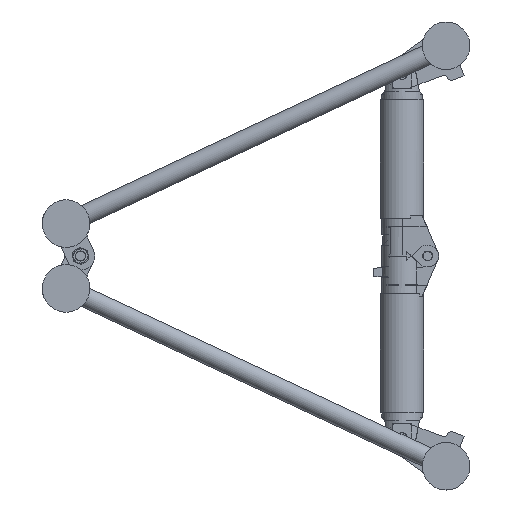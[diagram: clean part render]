
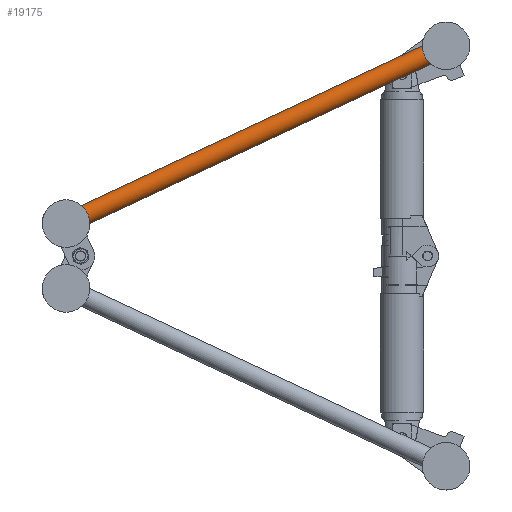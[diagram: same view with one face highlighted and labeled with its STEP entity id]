
A CAD part, left-side view. The second image highlights one B-rep face of the part: STEP entity #19175.
In plain terms, the highlighted cylindrical face has radius 12.5 mm (diameter 25 mm), a full revolution.
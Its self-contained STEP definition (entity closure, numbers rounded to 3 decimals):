
#310=B_SPLINE_CURVE_WITH_KNOTS('',3,(#30973,#30974,#30975,#30976,#30977,
#30978),.UNSPECIFIED.,.F.,.F.,(4,2,4),(1.801,1.922,
2.043),.UNSPECIFIED.);
#311=B_SPLINE_CURVE_WITH_KNOTS('',3,(#30982,#30983,#30984,#30985,#30986,
#30987),.UNSPECIFIED.,.F.,.F.,(4,2,4),(5.645,5.766,
5.887),.UNSPECIFIED.);
#314=B_SPLINE_CURVE_WITH_KNOTS('',3,(#31022,#31023,#31024,#31025,#31026,
#31027),.UNSPECIFIED.,.F.,.F.,(4,2,4),(5.645,5.766,
5.887),.UNSPECIFIED.);
#315=B_SPLINE_CURVE_WITH_KNOTS('',3,(#31031,#31032,#31033,#31034,#31035,
#31036),.UNSPECIFIED.,.F.,.F.,(4,2,4),(1.801,1.922,
2.043),.UNSPECIFIED.);
#802=FACE_BOUND('',#4026,.T.);
#1463=CIRCLE('',#20816,12.5);
#1464=CIRCLE('',#20818,12.5);
#1465=CIRCLE('',#20819,12.5);
#1466=CIRCLE('',#20820,12.5);
#1885=CYLINDRICAL_SURFACE('',#20817,12.5);
#2673=FACE_OUTER_BOUND('',#4025,.T.);
#4025=EDGE_LOOP('',(#14929,#14930,#14931,#14932));
#4026=EDGE_LOOP('',(#14933,#14934,#14935,#14936));
#8598=VERTEX_POINT('',#30971);
#8599=VERTEX_POINT('',#30972);
#8600=VERTEX_POINT('',#30979);
#8601=VERTEX_POINT('',#30981);
#8611=VERTEX_POINT('',#31020);
#8612=VERTEX_POINT('',#31021);
#8613=VERTEX_POINT('',#31028);
#8614=VERTEX_POINT('',#31030);
#10878=EDGE_CURVE('',#8598,#8599,#310,.T.);
#10880=EDGE_CURVE('',#8601,#8600,#311,.T.);
#10889=EDGE_CURVE('',#8600,#8598,#1463,.T.);
#10890=EDGE_CURVE('',#8611,#8612,#314,.T.);
#10891=EDGE_CURVE('',#8612,#8613,#1464,.T.);
#10892=EDGE_CURVE('',#8613,#8614,#315,.T.);
#10893=EDGE_CURVE('',#8614,#8611,#1465,.T.);
#10894=EDGE_CURVE('',#8599,#8601,#1466,.T.);
#14929=ORIENTED_EDGE('',*,*,#10890,.T.);
#14930=ORIENTED_EDGE('',*,*,#10891,.T.);
#14931=ORIENTED_EDGE('',*,*,#10892,.T.);
#14932=ORIENTED_EDGE('',*,*,#10893,.T.);
#14933=ORIENTED_EDGE('',*,*,#10880,.T.);
#14934=ORIENTED_EDGE('',*,*,#10889,.T.);
#14935=ORIENTED_EDGE('',*,*,#10878,.T.);
#14936=ORIENTED_EDGE('',*,*,#10894,.T.);
#19175=ADVANCED_FACE('',(#2673,#802),#1885,.T.);
#20816=AXIS2_PLACEMENT_3D('',#31018,#24832,#24833);
#20817=AXIS2_PLACEMENT_3D('',#31019,#24834,#24835);
#20818=AXIS2_PLACEMENT_3D('',#31029,#24836,#24837);
#20819=AXIS2_PLACEMENT_3D('',#31037,#24838,#24839);
#20820=AXIS2_PLACEMENT_3D('',#31038,#24840,#24841);
#24832=DIRECTION('center_axis',(0.,0.906,
-0.424));
#24833=DIRECTION('ref_axis',(1.,0.,0.));
#24834=DIRECTION('center_axis',(0.,0.906,
-0.424));
#24835=DIRECTION('ref_axis',(1.,0.,0.));
#24836=DIRECTION('center_axis',(0.,-0.906,
0.424));
#24837=DIRECTION('ref_axis',(1.,0.,0.));
#24838=DIRECTION('center_axis',(0.,-0.906,
0.424));
#24839=DIRECTION('ref_axis',(1.,0.,0.));
#24840=DIRECTION('center_axis',(0.,0.906,
-0.424));
#24841=DIRECTION('ref_axis',(1.,0.,0.));
#30971=CARTESIAN_POINT('',(80.06,22.096,248.305));
#30972=CARTESIAN_POINT('',(80.06,23.134,250.523));
#30973=CARTESIAN_POINT('Ctrl Pts',(80.06,22.096,248.305));
#30974=CARTESIAN_POINT('Ctrl Pts',(80.02,22.289,248.669));
#30975=CARTESIAN_POINT('Ctrl Pts',(80.,22.471,249.036));
#30976=CARTESIAN_POINT('Ctrl Pts',(80.,22.813,249.767));
#30977=CARTESIAN_POINT('Ctrl Pts',(80.02,22.978,250.142));
#30978=CARTESIAN_POINT('Ctrl Pts',(80.06,23.134,250.523));
#30979=CARTESIAN_POINT('',(104.94,22.096,248.305));
#30981=CARTESIAN_POINT('',(104.94,23.134,250.523));
#30982=CARTESIAN_POINT('Ctrl Pts',(104.94,23.134,250.523));
#30983=CARTESIAN_POINT('Ctrl Pts',(104.98,22.978,250.142));
#30984=CARTESIAN_POINT('Ctrl Pts',(105.,22.813,249.767));
#30985=CARTESIAN_POINT('Ctrl Pts',(105.,22.471,249.036));
#30986=CARTESIAN_POINT('Ctrl Pts',(104.98,22.289,248.669));
#30987=CARTESIAN_POINT('Ctrl Pts',(104.94,22.096,248.305));
#31018=CARTESIAN_POINT('Origin',(92.5,22.615,249.414));
#31019=CARTESIAN_POINT('Origin',(92.5,234.999,150.));
#31020=CARTESIAN_POINT('',(104.94,446.865,49.477));
#31021=CARTESIAN_POINT('',(104.94,447.903,51.695));
#31022=CARTESIAN_POINT('Ctrl Pts',(104.94,446.865,49.477));
#31023=CARTESIAN_POINT('Ctrl Pts',(104.98,447.021,49.858));
#31024=CARTESIAN_POINT('Ctrl Pts',(105.,447.185,50.233));
#31025=CARTESIAN_POINT('Ctrl Pts',(105.,447.528,50.964));
#31026=CARTESIAN_POINT('Ctrl Pts',(104.98,447.71,51.331));
#31027=CARTESIAN_POINT('Ctrl Pts',(104.94,447.903,51.695));
#31028=CARTESIAN_POINT('',(80.06,447.903,51.695));
#31029=CARTESIAN_POINT('Origin',(92.5,447.384,50.586));
#31030=CARTESIAN_POINT('',(80.06,446.865,49.477));
#31031=CARTESIAN_POINT('Ctrl Pts',(80.06,447.903,51.695));
#31032=CARTESIAN_POINT('Ctrl Pts',(80.02,447.71,51.331));
#31033=CARTESIAN_POINT('Ctrl Pts',(80.,447.528,50.964));
#31034=CARTESIAN_POINT('Ctrl Pts',(80.,447.185,50.233));
#31035=CARTESIAN_POINT('Ctrl Pts',(80.02,447.021,49.858));
#31036=CARTESIAN_POINT('Ctrl Pts',(80.06,446.865,49.477));
#31037=CARTESIAN_POINT('Origin',(92.5,447.384,50.586));
#31038=CARTESIAN_POINT('Origin',(92.5,22.615,249.414));
